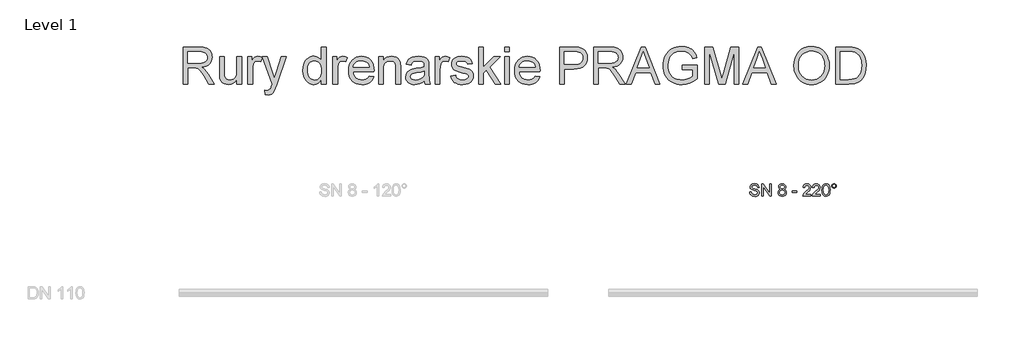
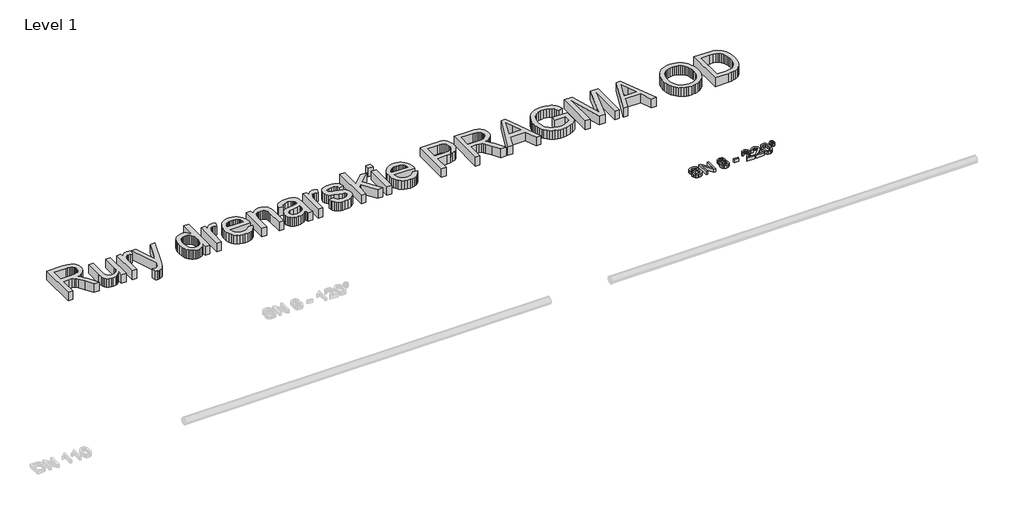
# One storey, part 4 of 9: 2 proxies.
"""IFC4 building model written with IfcOpenShell, lengths in millimetres."""

from ifc_helpers import new_model, si_unit, origin, origin_with_axes, place, context, project, spatial, polyline, outline, extrude, element, save

model = new_model("IFC4")

# Units and contexts
model_context = context("Model", 3, world=origin())
ifc_project = project(units=[si_unit("LENGTHUNIT", "METRE", prefix="MILLI")], contexts=[model_context])

# Site, building, storey
site = spatial("IfcSite", under=ifc_project)
building = spatial("IfcBuilding", under=site)
storey = spatial("IfcBuildingStorey", under=building, Name="Level 1", Elevation=0.0)

# Proxies
placement = place(None, origin())
element("IfcBuildingElementProxy", 1, Name="200mm Arial", ObjectType="200mm Arial", at=placement, inside=storey, context=model_context, shape_type="SweptSolid", body=[
    extrude(outline(polyline([(-7742.1398156, 2231.0128426), (-7717.0257381, 2231.0128426), (-7708.9323342, 2205.8742396), (-7700.8021421, 2196.983758), (-7689.1648083, 2189.9817374), (-7674.9400379, 2185.4383947), (-7659.0475357, 2183.9239472), (-7632.8052867, 2188.5102094), (-7615.8581894, 2201.1162991), (-7610.2909086, 2217.9652945), (-7614.4602379, 2233.6370675), (-7620.8123336, 2239.8358791), (-7631.5299624, 2245.0414093), (-7668.0974328, 2254.6308667), (-7707.4608062, 2267.0162272), (-7719.9626627, 2275.4652503), (-7728.8224874, 2285.7046325), (-7734.1015941, 2297.5136446), (-7735.8612963, 2310.6715573), (-7733.6846611, 2325.3807057), (-7727.1547557, 2339.0965728), (-7716.4432583, 2350.7216438), (-7701.7218471, 2359.1584042), (-7684.0512486, 2364.2903581), (-7664.4921892, 2366.0010093), (-7643.3021863, 2364.2106503), (-7624.7609337, 2358.8395732), (-7609.5306191, 2349.9981425), (-7598.2734301, 2337.796723), (-7591.1487821, 2322.9956041), (-7588.3160907, 2306.3550752), (-7613.4301683, 2306.3550752), (-7618.0409559, 2321.3401351), (-7627.6549387, 2332.1558658), (-7642.6767869, 2338.7041653), (-7663.5111705, 2340.8869318), (-7684.8360635, 2338.7286908), (-7699.4655042, 2332.2539676), (-7707.9267901, 2322.725824), (-7710.7472187, 2311.4073212), (-7708.7483932, 2301.7565502), (-7702.7519167, 2293.9942401), (-7688.5761971, 2287.0535332), (-7661.745337, 2279.9656734), (-7617.305192, 2267.3595837), (-7602.988451, 2258.2483729), (-7593.0004548, 2247.0034466), (-7587.132737, 2233.7474321), (-7585.176831, 2218.6029566), (-7587.4270426, 2203.121256), (-7594.1776772, 2188.5592603), (-7605.1528234, 2176.026747), (-7620.0765696, 2166.6334934), (-7638.0230796, 2160.7657756), (-7658.066517, 2158.8098696), (-7682.6716911, 2160.9190598), (-7702.923595, 2167.2466301), (-7719.0552205, 2177.8171061), (-7731.2995595, 2192.6550132), (-7739.1599715, 2210.7302819), (-7742.1398156, 2231.0128426)])), origin_with_axes(), (0.0, 0.0, 1.0), 50.0),
    extrude(outline(polyline([(-7547.5057147, 2161.9491293), (-7547.5057147, 2362.8617496), (-7520.6258036, 2362.8617496), (-7415.6568077, 2203.6914731), (-7415.6568077, 2362.8617496), (-7390.5427301, 2362.8617496), (-7390.5427301, 2161.9491293), (-7417.4226412, 2161.9491293), (-7522.3916372, 2321.1684569), (-7522.3916372, 2161.9491293), (-7547.5057147, 2161.9491293)])), origin_with_axes(), (0.0, 0.0, 1.0), 50.0),
    extrude(outline(polyline([(-7240.9373854, 2272.6080335), (-7254.3834723, 2279.2299094), (-7263.8196455, 2288.2062301), (-7269.3930577, 2299.3530545), (-7271.2508618, 2312.4864418), (-7267.2041599, 2332.1190776), (-7255.064054, 2348.3426736), (-7236.1917077, 2359.2319806), (-7211.9482842, 2362.8617496), (-7187.5577079, 2359.1461415), (-7168.4401069, 2347.999317), (-7156.0792719, 2331.5182037), (-7151.9589935, 2311.7997287), (-7153.7922721, 2299.0894058), (-7159.292108, 2288.1326537), (-7168.5198147, 2279.2115153), (-7181.5367059, 2272.6080335), (-7166.0795308, 2264.6433883), (-7154.8284731, 2252.914084), (-7147.9674739, 2237.9842064), (-7145.6804741, 2220.4178411), (-7150.2176854, 2196.4074096), (-7163.8293192, 2176.5663073), (-7184.8476439, 2163.2489791), (-7211.6049277, 2158.8098696), (-7238.3622115, 2163.2673732), (-7259.3805361, 2176.6398837), (-7272.9921699, 2196.6710583), (-7277.5293812, 2221.1045542), (-7275.150411, 2239.3515011), (-7268.0135003, 2254.3610865), (-7256.4865311, 2265.6182756), (-7240.9373854, 2272.6080335)]), holes=[polyline([(-7246.1367843, 2311.7506778), (-7243.9110982, 2300.7877943), (-7237.23404, 2292.0322028), (-7226.3018134, 2286.2932437), (-7211.3106221, 2284.3802573), (-7196.6689187, 2286.280981), (-7185.9022389, 2291.9831519), (-7179.280363, 2300.4444378), (-7177.0730711, 2310.6225063), (-7179.3539394, 2321.186851), (-7186.1965445, 2329.9240483), (-7197.1103771, 2335.7917662), (-7211.6049277, 2337.7476721), (-7226.1914488, 2335.8346857), (-7237.0868872, 2330.0957266), (-7243.87431, 2321.6834916), (-7246.1367843, 2311.7506778)]), polyline([(-7252.4153037, 2221.987471), (-7248.2214489, 2203.0783364), (-7242.4150448, 2194.9665384), (-7233.3835418, 2188.9271423), (-7211.4087239, 2183.9239472), (-7194.3144739, 2186.5543035), (-7181.487655, 2194.4453722), (-7173.4678275, 2206.3954057), (-7170.7945517, 2221.202656), (-7173.5536666, 2236.2612924), (-7181.8310115, 2248.4749746), (-7194.952136, 2256.5683785), (-7212.2425898, 2259.2661798), (-7229.0977165, 2256.6051667), (-7241.7957767, 2248.6221274), (-7249.7604219, 2236.6414371), (-7252.4153037, 2221.987471)])]), origin_with_axes(), (0.0, 0.0, 1.0), 50.0),
    extrude(outline(polyline([(-7051.5026834, 2221.5950635), (-7051.5026834, 2246.709141), (-6973.0211911, 2246.709141), (-6973.0211911, 2221.5950635), (-7051.5026834, 2221.5950635)])), origin_with_axes(), (0.0, 0.0, 1.0), 50.0),
    extrude(outline(polyline([(-6743.8552335, 2187.0632069), (-6743.8552335, 2161.9491293), (-6875.7041406, 2161.9491293), (-6873.0063393, 2179.2641086), (-6857.7514992, 2205.9232905), (-6826.3098514, 2235.0350191), (-6782.9488269, 2276.8754646), (-6774.8186348, 2291.2964388), (-6772.1085708, 2305.3250056), (-6774.6653506, 2317.9004385), (-6782.3356902, 2328.3544185), (-6794.1263082, 2335.3993587), (-6809.0439231, 2337.7476721), (-6824.7095647, 2335.454541), (-6836.8803274, 2328.5751477), (-6844.734608, 2317.6490524), (-6847.4508034, 2303.2158155), (-6872.5648809, 2306.3550752), (-6866.4764339, 2330.6475496), (-6853.3123898, 2348.3917245), (-6833.7594618, 2359.2442434), (-6808.5043628, 2362.8617496), (-6783.0653229, 2358.8395732), (-6763.549183, 2346.7730437), (-6751.1331657, 2328.746826), (-6746.9944932, 2306.8455845), (-6751.4581281, 2283.0313567), (-6766.2960352, 2258.4077885), (-6802.2748944, 2223.9985592), (-6831.1658937, 2199.8409748), (-6842.4966592, 2187.0632069), (-6743.8552335, 2187.0632069)])), origin_with_axes(), (0.0, 0.0, 1.0), 50.0),
    extrude(outline(polyline([(-6590.0315086, 2187.0632069), (-6590.0315086, 2161.9491293), (-6721.8804157, 2161.9491293), (-6719.1826144, 2179.2641086), (-6703.9277743, 2205.9232905), (-6672.4861265, 2235.0350191), (-6629.125102, 2276.8754646), (-6620.9949099, 2291.2964388), (-6618.2848458, 2305.3250056), (-6620.8416257, 2317.9004385), (-6628.5119653, 2328.3544185), (-6640.3025833, 2335.3993587), (-6655.2201982, 2337.7476721), (-6670.8858398, 2335.454541), (-6683.0566025, 2328.5751477), (-6690.9108831, 2317.6490524), (-6693.6270785, 2303.2158155), (-6718.741156, 2306.3550752), (-6712.652709, 2330.6475496), (-6699.4886649, 2348.3917245), (-6679.9357369, 2359.2442434), (-6654.6806379, 2362.8617496), (-6629.2415979, 2358.8395732), (-6609.7254581, 2346.7730437), (-6597.3094408, 2328.746826), (-6593.1707683, 2306.8455845), (-6597.6344032, 2283.0313567), (-6612.4723103, 2258.4077885), (-6648.4511695, 2223.9985592), (-6677.3421688, 2199.8409748), (-6688.6729343, 2187.0632069), (-6590.0315086, 2187.0632069)])), origin_with_axes(), (0.0, 0.0, 1.0), 50.0),
    extrude(outline(polyline([(-6564.9174311, 2260.7867587), (-6563.0718897, 2292.9457765), (-6557.5352657, 2318.5932829), (-6548.3627413, 2338.1216855), (-6535.6094988, 2351.9233917), (-6519.1835677, 2360.1271601), (-6498.9929775, 2362.8617496), (-6483.5174083, 2361.2430689), (-6469.6605198, 2356.3870265), (-6458.0722369, 2348.483695), (-6449.4024846, 2337.7231466), (-6437.6302608, 2307.9982814), (-6433.068524, 2260.7867587), (-6434.8956713, 2228.811682), (-6440.377113, 2203.2254892), (-6449.4944551, 2183.6786925), (-6462.2293035, 2169.821804), (-6478.6920228, 2161.5628532), (-6498.9929775, 2158.8098696), (-6525.0880737, 2163.5923356), (-6544.9046505, 2177.9397334), (-6553.660242, 2193.0688805), (-6559.9142359, 2211.919767), (-6564.9174311, 2260.7867587)]), holes=[polyline([(-6539.8033535, 2260.8358096), (-6536.8602976, 2221.3314147), (-6528.0311297, 2198.4675487), (-6514.8854797, 2187.5598476), (-6498.9929775, 2183.9239472), (-6483.1004754, 2187.5721103), (-6469.9548254, 2198.5165997), (-6461.1256575, 2221.3927284), (-6458.1826015, 2260.8358096), (-6461.0275556, 2299.4511564), (-6469.5624179, 2322.492832), (-6482.6835424, 2333.9339621), (-6499.2872831, 2337.7476721), (-6515.0081071, 2334.3876832), (-6527.6387222, 2324.3077165), (-6536.7621957, 2299.8313011), (-6539.8033535, 2260.8358096)])]), origin_with_axes(), (0.0, 0.0, 1.0), 50.0),
    extrude(outline(polyline([(-6404.8151868, 2328.378944), (-6402.0499405, 2342.8612318), (-6393.7542015, 2355.0136004), (-6381.5834388, 2363.2541571), (-6367.1931214, 2366.0010093), (-6352.6372571, 2363.2541571), (-6340.4603631, 2355.0136004), (-6332.2198064, 2342.8612318), (-6329.4729542, 2328.378944), (-6332.2382005, 2313.9150502), (-6340.5339395, 2301.719762), (-6352.7292276, 2293.4240231), (-6367.1931214, 2290.6587767), (-6381.5834388, 2293.405629), (-6393.7542015, 2301.6461856), (-6402.0499405, 2313.8230797), (-6404.8151868, 2328.378944)]), holes=[polyline([(-6389.1188883, 2328.329893), (-6387.5063389, 2319.8808699), (-6382.6686907, 2312.7807474), (-6375.5501741, 2307.9614932), (-6367.0950195, 2306.3550752), (-6358.7134414, 2307.9614932), (-6351.6194503, 2312.7807474), (-6346.781802, 2319.8808699), (-6345.1692526, 2328.329893), (-6346.781802, 2336.7789162), (-6351.6194503, 2343.8790387), (-6358.7134414, 2348.6982928), (-6367.0950195, 2350.3047109), (-6375.5501741, 2348.6982928), (-6382.6686907, 2343.8790387), (-6387.5063389, 2336.7789162), (-6389.1188883, 2328.329893)])]), origin_with_axes(), (0.0, 0.0, 1.0), 50.0),
])
element("IfcBuildingElementProxy", 2, Name="600mm Arial", ObjectType="600mm Arial", at=placement, inside=storey, context=model_context, shape_type="SweptSolid", body=[
    extrude(outline(polyline([(-16966.7426717, 3990.4626098), (-16966.7426717, 4593.2004707), (-16707.0179831, 4593.2004707), (-16637.2123745, 4589.1353747), (-16586.4262651, 4576.9400865), (-16566.8273518, 4567.246396), (-16549.3069718, 4554.4257084), (-16533.865125, 4538.4780239), (-16520.5018115, 4519.4033425), (-16509.7182705, 4498.2271351), (-16502.0157413, 4475.974873), (-16497.3942237, 4452.6465559), (-16495.8537179, 4428.2421841), (-16498.4058992, 4397.2849142), (-16506.0624432, 4368.8660301), (-16518.8233499, 4342.9855317), (-16536.6886193, 4319.6434191), (-16559.8881776, 4299.5846533), (-16588.6519511, 4283.5541954), (-16622.9799398, 4271.5520453), (-16662.8721437, 4263.5782031), (-16638.040109, 4247.3546071), (-16620.0506794, 4231.3517403), (-16589.18538, 4194.7474818), (-16558.9822682, 4153.8022157), (-16458.4769071, 3990.4626098), (-16546.032822, 3990.4626098), (-16624.4652634, 4115.3953354), (-16681.1190906, 4198.0952079), (-16702.1803348, 4222.2098727), (-16720.9239225, 4237.1642758), (-16756.7556288, 4251.5116736), (-16800.4600099, 4254.160424), (-16891.4004391, 4254.160424), (-16891.4004391, 3990.4626098), (-16966.7426717, 3990.4626098)]), holes=[polyline([(-16891.4004391, 4329.5026566), (-16722.7633325, 4329.5026566), (-16674.3316678, 4332.1698011), (-16636.752522, 4340.1712344), (-16608.4623966, 4354.0403857), (-16587.897793, 4374.3106836), (-16575.3714111, 4398.8300186), (-16571.1959505, 4425.4462809), (-16573.1871118, 4444.7141004), (-16579.1605957, 4462.1976922), (-16589.1164022, 4477.8970564), (-16603.0545312, 4491.8121929), (-16621.2968797, 4503.2073377), (-16644.1653442, 4511.3467268), (-16671.6599248, 4516.2303603), (-16703.7806215, 4517.8582381), (-16891.4004391, 4517.8582381), (-16891.4004391, 4329.5026566)])]), origin_with_axes(), (0.0, 0.0, 1.0), 150.0),
    extrude(outline(polyline([(-16090.8892176, 3990.4626098), (-16090.8892176, 4066.5406064), (-16118.1492734, 4029.1362046), (-16149.8974896, 4002.4187747), (-16186.1338661, 3986.3883167), (-16226.858403, 3981.0448308), (-16263.554632, 3984.7972271), (-16297.7124753, 3996.0544162), (-16326.3704827, 4012.9769879), (-16346.5672042, 4033.7255325), (-16360.1604439, 4058.9254491), (-16369.0080059, 4089.2021373), (-16373.4225899, 4159.2468692), (-16373.4225899, 4433.0982264), (-16298.0803572, 4433.0982264), (-16298.0803572, 4194.7106936), (-16296.9399231, 4147.033187), (-16293.5186205, 4117.896933), (-16282.537343, 4092.273952), (-16263.7201789, 4072.7946004), (-16238.3179271, 4060.4889476), (-16207.5813864, 4056.3870634), (-16175.0790122, 4060.5809181), (-16144.6735653, 4073.1624823), (-16119.6024073, 4092.9729278), (-16103.1028998, 4118.8534261), (-16093.9426381, 4154.2988564), (-16090.8892176, 4202.8040974), (-16090.8892176, 4433.0982264), (-16015.546985, 4433.0982264), (-16015.546985, 3990.4626098), (-16090.8892176, 3990.4626098)])), origin_with_axes(), (0.0, 0.0, 1.0), 150.0),
    extrude(outline(polyline([(-15911.9514151, 3990.4626098), (-15911.9514151, 4433.0982264), (-15846.0269616, 4433.0982264), (-15846.0269616, 4367.6152313), (-15821.6731735, 4405.5806532), (-15799.2323718, 4427.9478785), (-15776.7179937, 4438.8739738), (-15752.1434764, 4442.5160055), (-15714.6195129, 4436.70347), (-15676.5069382, 4419.2658634), (-15701.6700667, 4351.7227291), (-15728.1575703, 4363.3110119), (-15754.645074, 4367.1737729), (-15777.141058, 4363.4581647), (-15797.245809, 4352.3113403), (-15813.4877991, 4334.5794281), (-15824.3955003, 4311.1085568), (-15833.5557619, 4269.0228566), (-15836.6091825, 4223.1111836), (-15836.6091825, 3990.4626098), (-15911.9514151, 3990.4626098)])), origin_with_axes(), (0.0, 0.0, 1.0), 150.0),
    extrude(outline(polyline([(-15629.4180428, 3820.9425865), (-15638.8358219, 3893.4889159), (-15600.5760944, 3886.86704), (-15580.4529493, 3888.9455733), (-15564.8179645, 3895.1811731), (-15552.6410704, 3905.1323811), (-15542.8921975, 3918.3577388), (-15522.2908058, 3973.8343436), (-15516.4046939, 3992.0812906), (-15676.5069382, 4433.0982264), (-15597.0444272, 4433.0982264), (-15512.1372628, 4187.3530537), (-15482.5595503, 4089.0549845), (-15452.9818379, 4175.8751354), (-15365.7202287, 4433.0982264), (-15286.8463289, 4433.0982264), (-15440.9153085, 3979.8676084), (-15480.9408696, 3881.5695393), (-15501.4318967, 3850.1892051), (-15524.6452506, 3828.4473792), (-15551.6110008, 3815.7554503), (-15583.359217, 3811.5248074), (-15605.1746193, 3813.8792521), (-15629.4180428, 3820.9425865)])), origin_with_axes(), (0.0, 0.0, 1.0), 150.0),
    extrude(outline(polyline([(-14715.8934724, 3990.4626098), (-14715.8934724, 4061.5374113), (-14738.4354416, 4026.3219073), (-14765.7414827, 4001.1679759), (-14797.8115957, 3986.075617), (-14834.6457804, 3981.0448308), (-14859.5146033, 3982.8658466), (-14883.3533566, 3988.3288943), (-14906.1620403, 3997.4339736), (-14927.9406544, 4010.1810848), (-14948.0086172, 4026.1885501), (-14965.6853471, 4045.074692), (-14980.970844, 4066.8395106), (-14993.8651079, 4091.4830057), (-15004.1014245, 4118.5361279), (-15011.4130791, 4147.5298277), (-15017.2624028, 4211.3389597), (-15011.8729316, 4274.3571455), (-14995.7045179, 4331.2684902), (-14983.5828062, 4356.6247567), (-14968.7755559, 4378.8356321), (-14951.282767, 4397.9011165), (-14931.1044396, 4413.8212099), (-14908.9533449, 4426.375183), (-14885.5422545, 4435.3423066), (-14860.8711682, 4440.7225808), (-14834.940086, 4442.5160055), (-14798.0783101, 4437.3840517), (-14765.4839653, 4421.9881902), (-14737.8560275, 4398.3885602), (-14715.8934724, 4368.6453009), (-14715.8934724, 4593.2004707), (-14640.5512398, 4593.2004707), (-14640.5512398, 3990.4626098), (-14715.8934724, 3990.4626098)]), holes=[polyline([(-14941.9201702, 4211.6332653), (-14939.7956517, 4175.0979847), (-14933.4220961, 4143.4831257), (-14922.7995035, 4116.7886885), (-14907.9278739, 4095.0146729), (-14890.1683706, 4078.1150937), (-14870.882157, 4066.0439657), (-14850.0692331, 4058.801289), (-14827.7295989, 4056.3870634), (-14805.2841987, 4058.6909244), (-14784.595435, 4065.6025073), (-14765.6633078, 4077.1218123), (-14748.4878172, 4093.2488393), (-14734.2277913, 4114.1123469), (-14724.0420586, 4139.841094), (-14717.9306189, 4170.4350804), (-14715.8934724, 4205.8943062), (-14717.9674071, 4244.770236), (-14724.1892114, 4278.1095419), (-14734.5588851, 4305.9122236), (-14749.0764284, 4328.1782814), (-14766.6289981, 4345.2388089), (-14786.1037512, 4357.4249), (-14807.5006877, 4364.7365547), (-14830.8198077, 4367.1737729), (-14853.6009002, 4364.8331237), (-14874.4138241, 4357.8111761), (-14893.2585793, 4346.1079301), (-14910.1351658, 4329.7233858), (-14924.0411053, 4308.2988581), (-14933.9739191, 4281.4756621), (-14939.9336075, 4249.2537979), (-14941.9201702, 4211.6332653)])]), origin_with_axes(), (0.0, 0.0, 1.0), 150.0),
    extrude(outline(polyline([(-14527.5378909, 3990.4626098), (-14527.5378909, 4433.0982264), (-14461.6134373, 4433.0982264), (-14461.6134373, 4367.6152313), (-14437.2596492, 4405.5806532), (-14414.8188475, 4427.9478785), (-14392.3044694, 4438.8739738), (-14367.7299522, 4442.5160055), (-14330.2059886, 4436.70347), (-14292.0934139, 4419.2658634), (-14317.2565424, 4351.7227291), (-14343.7440461, 4363.3110119), (-14370.2315497, 4367.1737729), (-14392.7275337, 4363.4581647), (-14412.8322848, 4352.3113403), (-14429.0742749, 4334.5794281), (-14439.981976, 4311.1085568), (-14449.1422377, 4269.0228566), (-14452.1956582, 4223.1111836), (-14452.1956582, 3990.4626098), (-14527.5378909, 3990.4626098)])), origin_with_axes(), (0.0, 0.0, 1.0), 150.0),
    extrude(outline(polyline([(-13935.1007258, 4122.3115169), (-13861.2300212, 4112.8937378), (-13872.5561881, 4083.3068284), (-13887.8462835, 4057.233192), (-13907.1003075, 4034.6728286), (-13930.3182599, 4015.6257383), (-13957.2610175, 4000.4965913), (-13987.689457, 3989.6900576), (-14021.6035785, 3983.2061375), (-14059.0033818, 3981.0448308), (-14105.7519863, 3984.7742345), (-14147.4054252, 3995.9624457), (-14183.9636985, 4014.6094643), (-14215.4268062, 4040.7152904), (-14240.7278904, 4073.553357), (-14258.8000934, 4112.3970971), (-14269.6434152, 4157.2465109), (-14273.2578558, 4208.1015982), (-14269.606627, 4260.6811323), (-14258.6529406, 4307.0250667), (-14240.3967966, 4347.1334012), (-14214.838195, 4381.0061359), (-14183.4578608, 4407.9167039), (-14147.736519, 4427.1385381), (-14107.6741698, 4438.6716387), (-14063.2708129, 4442.5160055), (-14020.2975974, 4438.6808357), (-13981.4354631, 4427.1753263), (-13946.6844102, 4407.9994773), (-13916.0444385, 4381.1532887), (-13891.0330613, 4347.3541304), (-13873.1677919, 4307.3193723), (-13862.4486303, 4261.0490143), (-13858.8755764, 4208.5430566), (-13859.3170348, 4188.2359704), (-14197.9156232, 4188.2359704), (-14193.551623, 4158.1708144), (-14184.8742065, 4131.8396606), (-14171.8833735, 4109.242509), (-14154.5791241, 4090.3793597), (-14133.9179516, 4075.5077301), (-14110.856349, 4064.8851375), (-14085.3943164, 4058.5115819), (-14057.5318538, 4056.3870634), (-14017.4327163, 4060.3234007), (-13983.6611492, 4072.1324128), (-13956.2171524, 4092.5498635), (-13935.1007258, 4122.3115169)]), holes=[polyline([(-14197.9156232, 4263.5782031), (-13934.217809, 4263.5782031), (-13944.4081403, 4303.3830349), (-13953.1729288, 4319.0364138), (-13964.3841326, 4331.8571014), (-13984.9303421, 4347.3081452), (-14008.3092429, 4358.344605), (-14034.520835, 4364.9664809), (-14063.5651185, 4367.1737729), (-14090.0572207, 4365.4125378), (-14114.351228, 4360.1288327), (-14136.4471403, 4351.3226574), (-14156.3449577, 4338.9940121), (-14173.0422018, 4323.7131137), (-14185.536394, 4306.0501794), (-14193.8275345, 4286.0052092), (-14197.9156232, 4263.5782031)])]), origin_with_axes(), (0.0, 0.0, 1.0), 150.0),
    extrude(outline(polyline([(-13783.5333438, 3990.4626098), (-13783.5333438, 4433.0982264), (-13708.1911112, 4433.0982264), (-13708.1911112, 4371.2940512), (-13682.0163072, 4402.4536562), (-13650.5807908, 4424.7105169), (-13613.8845617, 4438.0646334), (-13571.9276202, 4442.5160055), (-13534.7899328, 4438.9291561), (-13500.7792423, 4428.1686077), (-13472.4155405, 4411.5771297), (-13452.218819, 4390.4974914), (-13438.5152146, 4364.984875), (-13429.6308645, 4335.0944629), (-13425.6577389, 4262.2538279), (-13425.6577389, 3990.4626098), (-13500.9999715, 3990.4626098), (-13500.9999715, 4252.1002848), (-13503.1704753, 4291.0589881), (-13509.6819866, 4318.7605023), (-13521.6933337, 4338.607736), (-13540.363345, 4354.0035975), (-13564.2940688, 4363.881229), (-13592.0875535, 4367.1737729), (-13614.9652151, 4365.3251659), (-13636.2149988, 4359.7793448), (-13655.8369048, 4350.5363097), (-13673.8309329, 4337.5960605), (-13688.8635109, 4319.4870693), (-13699.6010666, 4294.737808), (-13706.0436001, 4263.3482768), (-13708.1911112, 4225.3184756), (-13708.1911112, 3990.4626098), (-13783.5333438, 3990.4626098)])), origin_with_axes(), (0.0, 0.0, 1.0), 150.0),
    extrude(outline(polyline([(-13039.5287968, 4046.9692843), (-13075.52605, 4016.1039849), (-13112.590161, 3995.9072634), (-13151.5672584, 3984.7604389), (-13193.3034708, 3981.0448308), (-13226.8497102, 3983.2797139), (-13256.2664742, 3989.9843632), (-13281.5537629, 4001.1587788), (-13302.7115761, 4016.8029607), (-13319.4180172, 4035.9236274), (-13331.3511894, 4057.5274976), (-13338.5110928, 4081.6145712), (-13340.8977272, 4108.1848483), (-13337.2924837, 4139.4180297), (-13326.476753, 4167.7817315), (-13309.7933045, 4192.0619432), (-13288.5849075, 4211.0446541), (-13263.6609023, 4225.392052), (-13235.8306294, 4235.7663242), (-13170.6419399, 4247.0970897), (-13093.6074501, 4259.0164663), (-13039.9702552, 4272.9959821), (-13039.5287968, 4289.7714011), (-13044.7159329, 4323.3958155), (-13051.1998531, 4335.848621), (-13060.2773413, 4345.3951588), (-13075.9675084, 4354.9233025), (-13095.078978, 4361.7291194), (-13143.565825, 4367.1737729), (-13188.4474284, 4363.5501352), (-13219.7909744, 4352.6792223), (-13241.1649183, 4332.5744712), (-13256.1377155, 4301.2493194), (-13331.4799481, 4310.6670984), (-13318.4017432, 4351.8698819), (-13298.8856034, 4384.2434975), (-13271.1105127, 4409.0019557), (-13233.2554554, 4427.3592673), (-13186.9575063, 4438.726821), (-13133.8537403, 4442.5160055), (-13082.9204781, 4439.1682793), (-13042.5454291, 4429.1251009), (-13012.103194, 4414.023545), (-12990.9683734, 4395.5006865), (-12976.9520694, 4372.6000323), (-12967.8653841, 4344.3650892), (-12964.1865642, 4278.4406357), (-12964.1865642, 4184.7043033), (-12960.3605914, 4053.8118894), (-12954.6952087, 4021.4566679), (-12945.351006, 3990.4626098), (-13020.6932386, 3990.4626098), (-13032.7597681, 4016.6558079), (-13039.5287968, 4046.9692843)]), holes=[polyline([(-13039.5287968, 4197.6537495), (-13090.1493593, 4185.1089735), (-13161.077008, 4174.5507602), (-13225.8978155, 4162.337078), (-13242.765205, 4153.9861567), (-13255.2547987, 4142.4714502), (-13262.9803206, 4128.6758754), (-13265.5554946, 4113.482349), (-13259.9452942, 4091.0783355), (-13243.1146929, 4072.721024), (-13215.4315728, 4060.4705535), (-13177.2638158, 4056.3870634), (-13136.7967963, 4060.8936178), (-13101.0386664, 4074.4132811), (-13072.0495651, 4094.3340912), (-13051.8896318, 4118.0440858), (-13042.9500993, 4142.4714502), (-13039.9702552, 4176.3165938), (-13039.5287968, 4197.6537495)])]), origin_with_axes(), (0.0, 0.0, 1.0), 150.0),
    extrude(outline(polyline([(-12860.5909943, 3990.4626098), (-12860.5909943, 4433.0982264), (-12794.6665408, 4433.0982264), (-12794.6665408, 4367.6152313), (-12770.3127527, 4405.5806532), (-12747.871951, 4427.9478785), (-12725.3575729, 4438.8739738), (-12700.7830556, 4442.5160055), (-12663.2590921, 4436.70347), (-12625.1465174, 4419.2658634), (-12650.3096459, 4351.7227291), (-12676.7971495, 4363.3110119), (-12703.2846532, 4367.1737729), (-12725.7806372, 4363.4581647), (-12745.8853882, 4352.3113403), (-12762.1273783, 4334.5794281), (-12773.0350795, 4311.1085568), (-12782.1953411, 4269.0228566), (-12785.2487617, 4223.1111836), (-12785.2487617, 3990.4626098), (-12860.5909943, 3990.4626098)])), origin_with_axes(), (0.0, 0.0, 1.0), 150.0),
    extrude(outline(polyline([(-12606.3109592, 4122.3115169), (-12530.9687266, 4131.729296), (-12526.4161869, 4114.5492068), (-12519.0861382, 4099.5028332), (-12508.9785804, 4086.5901752), (-12496.0935135, 4075.8112327), (-12480.3941493, 4067.3131586), (-12461.8436997, 4061.2431057), (-12416.1895441, 4056.3870634), (-12371.0872115, 4060.8384355), (-12353.5576345, 4066.4026507), (-12339.3757835, 4074.1925519), (-12320.6138018, 4093.5431449), (-12315.9233064, 4104.3772696), (-12314.3598079, 4115.9839466), (-12315.9325034, 4126.1558838), (-12320.65059, 4135.1873867), (-12339.5229363, 4149.8290901), (-12367.7394854, 4159.394022), (-12417.0724609, 4171.3133987), (-12485.8296058, 4191.1974205), (-12530.5272682, 4208.1751746), (-12559.240458, 4226.698033), (-12580.0441848, 4251.217368), (-12592.6809313, 4280.169681), (-12596.8931802, 4311.9914736), (-12593.5086658, 4341.1829099), (-12583.3551227, 4368.1302661), (-12567.352256, 4391.7666843), (-12546.4197704, 4411.0253067), (-12525.6160436, 4423.1470185), (-12498.5215347, 4433.3189556), (-12467.1963828, 4440.216743), (-12433.7007271, 4442.5160055), (-12384.6620572, 4438.8187915), (-12342.0245339, 4427.7271493), (-12307.737932, 4410.3263309), (-12283.7520259, 4387.7015882), (-12267.8595237, 4358.1790581), (-12257.8531334, 4320.0848775), (-12333.195366, 4310.6670984), (-12342.7051156, 4334.377093), (-12361.5222797, 4352.2377639), (-12389.8307992, 4363.4397706), (-12427.8146152, 4367.1737729), (-12471.0775378, 4363.6053175), (-12499.9194862, 4352.8999515), (-12516.1430822, 4337.4489077), (-12521.5509476, 4319.6434191), (-12519.3068674, 4308.0551363), (-12512.5746269, 4297.7176522), (-12501.0599204, 4288.4838141), (-12484.4684424, 4281.089386), (-12419.5740585, 4265.049731), (-12308.9887307, 4229.5859067), (-12279.7789003, 4212.6265467), (-12257.6324042, 4189.4131928), (-12243.6712825, 4159.8722686), (-12239.0175753, 4123.9301977), (-12244.4806229, 4086.7741162), (-12260.8697658, 4051.8253266), (-12287.5596045, 4021.8245499), (-12323.9247398, 3999.5125069), (-12367.84985, 3985.6617498), (-12417.2196137, 3981.0448308), (-12457.7694066, 3983.2705168), (-12493.1872457, 3989.947575), (-12523.473131, 4001.0760054), (-12548.6270624, 4016.6558079), (-12569.1732718, 4036.6134061), (-12585.6359911, 4060.8752237), (-12598.0152203, 4089.4412606), (-12606.3109592, 4122.3115169)])), origin_with_axes(), (0.0, 0.0, 1.0), 150.0),
    extrude(outline(polyline([(-12154.2575636, 3990.4626098), (-12154.2575636, 4593.2004707), (-12078.915331, 4593.2004707), (-12078.915331, 4269.3171622), (-11909.9839188, 4433.0982264), (-11805.7997377, 4433.0982264), (-11976.7912891, 4267.257023), (-11796.3819587, 3990.4626098), (-11884.3793319, 3990.4626098), (-12030.796366, 4214.8706269), (-12078.915331, 4168.2231899), (-12078.915331, 3990.4626098), (-12154.2575636, 3990.4626098)])), origin_with_axes(), (0.0, 0.0, 1.0), 150.0),
    extrude(outline(polyline([(-11730.4575051, 4517.8582381), (-11730.4575051, 4593.2004707), (-11655.1152725, 4593.2004707), (-11655.1152725, 4517.8582381), (-11730.4575051, 4517.8582381)])), origin_with_axes(), (0.0, 0.0, 1.0), 150.0),
    extrude(outline(polyline([(-11730.4575051, 3990.4626098), (-11730.4575051, 4433.0982264), (-11655.1152725, 4433.0982264), (-11655.1152725, 3990.4626098), (-11730.4575051, 3990.4626098)])), origin_with_axes(), (0.0, 0.0, 1.0), 150.0),
    extrude(outline(polyline([(-11232.1981309, 4122.3115169), (-11158.3274262, 4112.8937378), (-11169.6535932, 4083.3068284), (-11184.9436886, 4057.233192), (-11204.1977125, 4034.6728286), (-11227.4156649, 4015.6257383), (-11254.3584225, 4000.4965913), (-11284.7868621, 3989.6900576), (-11318.7009835, 3983.2061375), (-11356.1007868, 3981.0448308), (-11402.8493914, 3984.7742345), (-11444.5028303, 3995.9624457), (-11481.0611036, 4014.6094643), (-11512.5242112, 4040.7152904), (-11537.8252954, 4073.553357), (-11555.8974984, 4112.3970971), (-11566.7408202, 4157.2465109), (-11570.3552608, 4208.1015982), (-11566.704032, 4260.6811323), (-11555.7503456, 4307.0250667), (-11537.4942016, 4347.1334012), (-11511.9356, 4381.0061359), (-11480.5552658, 4407.9167039), (-11444.8339241, 4427.1385381), (-11404.7715748, 4438.6716387), (-11360.368218, 4442.5160055), (-11317.3950024, 4438.6808357), (-11278.5328682, 4427.1753263), (-11243.7818152, 4407.9994773), (-11213.1418435, 4381.1532887), (-11188.1304664, 4347.3541304), (-11170.265197, 4307.3193723), (-11159.5460353, 4261.0490143), (-11155.9729815, 4208.5430566), (-11156.4144399, 4188.2359704), (-11495.0130282, 4188.2359704), (-11490.6490281, 4158.1708144), (-11481.9716115, 4131.8396606), (-11468.9807785, 4109.242509), (-11451.6765292, 4090.3793597), (-11431.0153566, 4075.5077301), (-11407.9537541, 4064.8851375), (-11382.4917215, 4058.5115819), (-11354.6292589, 4056.3870634), (-11314.5301214, 4060.3234007), (-11280.7585542, 4072.1324128), (-11253.3145574, 4092.5498635), (-11232.1981309, 4122.3115169)]), holes=[polyline([(-11495.0130282, 4263.5782031), (-11231.3152141, 4263.5782031), (-11241.5055453, 4303.3830349), (-11250.2703339, 4319.0364138), (-11261.4815377, 4331.8571014), (-11282.0277471, 4347.3081452), (-11305.4066479, 4358.344605), (-11331.6182401, 4364.9664809), (-11360.6625236, 4367.1737729), (-11387.1546258, 4365.4125378), (-11411.448633, 4360.1288327), (-11433.5445453, 4351.3226574), (-11453.4423628, 4338.9940121), (-11470.1396068, 4323.7131137), (-11482.6337991, 4306.0501794), (-11490.9249395, 4286.0052092), (-11495.0130282, 4263.5782031)])]), origin_with_axes(), (0.0, 0.0, 1.0), 150.0),
    extrude(outline(polyline([(-10835.7684929, 3990.4626098), (-10835.7684929, 4593.2004707), (-10612.3905454, 4593.2004707), (-10560.3720313, 4591.7657309), (-10522.333033, 4587.4615116), (-10482.1787132, 4576.7377514), (-10449.1245159, 4559.2817508), (-10422.5082536, 4534.3025633), (-10401.6677386, 4501.0092427), (-10388.2032575, 4461.7378398), (-10383.7150972, 4418.824405), (-10386.7455251, 4381.8246734), (-10395.8368089, 4347.7863917), (-10410.9889486, 4316.7095602), (-10432.2019442, 4288.5941787), (-10461.3244026, 4265.2888543), (-10500.204931, 4248.642194), (-10548.8435292, 4238.6541979), (-10607.2401975, 4235.3248658), (-10760.4262602, 4235.3248658), (-10760.4262602, 3990.4626098), (-10835.7684929, 3990.4626098)]), holes=[polyline([(-10760.4262602, 4310.6670984), (-10602.8256135, 4310.6670984), (-10566.589237, 4312.3961438), (-10536.0182432, 4317.5832799), (-10511.1126321, 4326.2285068), (-10491.8724038, 4338.3318245), (-10477.5158089, 4353.5713361), (-10467.2610983, 4371.625145), (-10461.1082719, 4392.4932512), (-10459.0573298, 4416.1756547), (-10463.894978, 4450.0207982), (-10478.4079227, 4478.568441), (-10500.7935422, 4500.0527496), (-10529.2492145, 4512.7078902), (-10558.3118921, 4516.5706511), (-10604.5914471, 4517.8582381), (-10760.4262602, 4517.8582381), (-10760.4262602, 4310.6670984)])]), origin_with_axes(), (0.0, 0.0, 1.0), 150.0),
    extrude(outline(polyline([(-10280.1195273, 3990.4626098), (-10280.1195273, 4593.2004707), (-10020.3948388, 4593.2004707), (-9950.5892302, 4589.1353747), (-9899.8031207, 4576.9400865), (-9880.2042074, 4567.246396), (-9862.6838274, 4554.4257084), (-9847.2419807, 4538.4780239), (-9833.8786672, 4519.4033425), (-9823.0951262, 4498.2271351), (-9815.3925969, 4475.974873), (-9810.7710794, 4452.6465559), (-9809.2305735, 4428.2421841), (-9811.7827549, 4397.2849142), (-9819.4392989, 4368.8660301), (-9832.2002056, 4342.9855317), (-9850.065475, 4319.6434191), (-9873.2650333, 4299.5846533), (-9902.0288068, 4283.5541954), (-9936.3567955, 4271.5520453), (-9976.2489993, 4263.5782031), (-9951.4169647, 4247.3546071), (-9933.4275351, 4231.3517403), (-9902.5622357, 4194.7474818), (-9872.3591239, 4153.8022157), (-9771.8537628, 3990.4626098), (-9859.4096777, 3990.4626098), (-9937.842119, 4115.3953354), (-9994.4959463, 4198.0952079), (-10015.5571905, 4222.2098727), (-10034.3007782, 4237.1642758), (-10070.1324845, 4251.5116736), (-10113.8368655, 4254.160424), (-10204.7772947, 4254.160424), (-10204.7772947, 3990.4626098), (-10280.1195273, 3990.4626098)]), holes=[polyline([(-10204.7772947, 4329.5026566), (-10036.1401881, 4329.5026566), (-9987.7085235, 4332.1698011), (-9950.1293777, 4340.1712344), (-9921.8392522, 4354.0403857), (-9901.2746487, 4374.3106836), (-9888.7482668, 4398.8300186), (-9884.5728061, 4425.4462809), (-9886.5639674, 4444.7141004), (-9892.5374513, 4462.1976922), (-9902.4932578, 4477.8970564), (-9916.4313869, 4491.8121929), (-9934.6737354, 4503.2073377), (-9957.5421999, 4511.3467268), (-9985.0367805, 4516.2303603), (-10017.1574772, 4517.8582381), (-10204.7772947, 4517.8582381), (-10204.7772947, 4329.5026566)])]), origin_with_axes(), (0.0, 0.0, 1.0), 150.0),
    extrude(outline(polyline([(-9747.5735511, 3990.4626098), (-9506.9787263, 4593.2004707), (-9442.8201063, 4593.2004707), (-9202.2252815, 3990.4626098), (-9281.8349452, 3990.4626098), (-9350.8496075, 4178.8181914), (-9599.0963779, 4178.8181914), (-9667.9638874, 3990.4626098), (-9747.5735511, 3990.4626098)]), holes=[polyline([(-9571.4316518, 4254.160424), (-9378.3671808, 4254.160424), (-9432.6665633, 4402.3432916), (-9474.8994163, 4517.8582381), (-9512.4233798, 4415.2927379), (-9571.4316518, 4254.160424)])]), origin_with_axes(), (0.0, 0.0, 1.0), 150.0),
    extrude(outline(polyline([(-8839.1993286, 4225.9070867), (-8839.1993286, 4301.2493194), (-8594.3370726, 4301.2493194), (-8594.3370726, 4075.9583855), (-8653.8419854, 4034.5716611), (-8715.2230963, 4004.883584), (-8778.3332525, 3987.0045191), (-8843.0253014, 3981.0448308), (-8886.3020196, 3983.4130711), (-8927.5461898, 3990.5177921), (-8966.7578119, 4002.3589939), (-9003.9368861, 4018.9366763), (-9037.8831972, 4040.002519), (-9067.3965302, 4065.3082018), (-9092.4768853, 4094.8537245), (-9113.1242622, 4128.6390872), (-9129.2512892, 4165.5836366), (-9140.7705942, 4204.6067192), (-9147.6821772, 4245.7083351), (-9149.9860382, 4288.8884843), (-9147.6913742, 4332.073232), (-9140.8073824, 4373.7772547), (-9129.3340627, 4414.0005524), (-9113.271415, 4452.743125), (-9092.9045481, 4488.3035183), (-9068.5185703, 4518.9802782), (-9040.1134818, 4544.7734046), (-9007.6892824, 4565.6828975), (-8971.9495466, 4581.8421141), (-8933.5978486, 4593.3844117), (-8892.6341884, 4600.3097903), (-8849.0585661, 4602.6182498), (-8786.9968735, 4597.2655668), (-8731.1891749, 4581.2075177), (-8706.2697682, 4569.4536879), (-8684.19225, 4555.6029308), (-8664.9566201, 4539.6552463), (-8648.5628787, 4521.6106345), (-8622.2041338, 4477.5935537), (-8603.0190877, 4421.9146138), (-8672.4752084, 4402.3432916), (-8687.9814345, 4442.056153), (-8706.8353868, 4472.0201415), (-8731.777786, 4494.608096), (-8765.5493532, 4512.1928554), (-8805.8140376, 4523.5052267), (-8850.2357885, 4527.2760172), (-8902.2359085, 4523.2109211), (-8946.6944476, 4511.015633), (-8983.4458589, 4492.2168631), (-9012.3245956, 4468.3413216), (-9034.4894858, 4440.6214132), (-9051.0993579, 4410.2895427), (-9068.7576936, 4353.4149863), (-9074.6438056, 4291.9786931), (-9072.8733734, 4254.3581605), (-9067.5620771, 4219.9290043), (-9058.7099166, 4188.6912244), (-9046.3168919, 4160.6448208), (-9030.5439514, 4135.8955596), (-9011.5520434, 4114.5492068), (-8989.3411679, 4096.6057625), (-8963.911325, 4082.0652266), (-8936.4535326, 4070.8310302), (-8908.1588086, 4062.8066042), (-8879.0271531, 4057.9919486), (-8849.0585661, 4056.3870634), (-8796.8745051, 4061.2247116), (-8745.9780311, 4075.7376563), (-8701.7770093, 4095.7320428), (-8669.6793053, 4117.0140162), (-8669.6793053, 4225.9070867), (-8839.1993286, 4225.9070867)])), origin_with_axes(), (0.0, 0.0, 1.0), 150.0),
    extrude(outline(polyline([(-8471.9059447, 3990.4626098), (-8471.9059447, 4593.2004707), (-8342.2643296, 4593.2004707), (-8218.9502848, 4168.3703427), (-8194.0814619, 4079.6372055), (-8167.1524998, 4175.7279826), (-8045.8985942, 4593.2004707), (-7916.2569791, 4593.2004707), (-7916.2569791, 3990.4626098), (-7991.5992118, 3990.4626098), (-7991.5992118, 4517.8582381), (-8143.019441, 3990.4626098), (-8245.1434828, 3990.4626098), (-8396.563712, 4517.8582381), (-8396.563712, 3990.4626098), (-8471.9059447, 3990.4626098)])), origin_with_axes(), (0.0, 0.0, 1.0), 150.0),
    extrude(outline(polyline([(-7854.5999567, 3990.4626098), (-7614.0051319, 4593.2004707), (-7549.8465119, 4593.2004707), (-7309.2516871, 3990.4626098), (-7388.8613509, 3990.4626098), (-7457.8760131, 4178.8181914), (-7706.1227835, 4178.8181914), (-7774.990293, 3990.4626098), (-7854.5999567, 3990.4626098)]), holes=[polyline([(-7678.4580575, 4254.160424), (-7485.3935864, 4254.160424), (-7539.6929689, 4402.3432916), (-7581.9258219, 4517.8582381), (-7619.4497854, 4415.2927379), (-7678.4580575, 4254.160424)])]), origin_with_axes(), (0.0, 0.0, 1.0), 150.0),
    extrude(outline(polyline([(-7021.5679669, 4283.8852892), (-7016.5463776, 4354.5830116), (-7001.4816099, 4417.168936), (-6976.3736638, 4471.6430625), (-6960.0534988, 4495.8382014), (-6941.2225391, 4518.0053909), (-6898.1343604, 4555.0235167), (-6849.2152521, 4581.4650351), (-6794.4652142, 4597.3299461), (-6733.8842466, 4602.6182498), (-6693.3344537, 4600.1350463), (-6654.8264059, 4592.6854359), (-6618.3601031, 4580.2694186), (-6583.9355454, 4562.8869943), (-6552.518423, 4541.062395), (-6525.0744262, 4515.3198524), (-6501.6035549, 4485.6593665), (-6482.1058091, 4452.0809374), (-6466.783524, 4415.3479202), (-6455.8390347, 4376.22367), (-6449.2723411, 4334.7081868), (-6447.0834432, 4290.8014707), (-6449.3873042, 4246.3153404), (-6456.2988872, 4204.2388372), (-6467.8181922, 4164.5719611), (-6483.9452191, 4127.314712), (-6504.2982905, 4093.4511744), (-6528.4957287, 4063.9654325), (-6556.5375338, 4038.8574863), (-6588.4237057, 4018.1273359), (-6622.8988472, 4001.9037399), (-6658.7075609, 3990.315457), (-6695.8498469, 3983.3624873), (-6734.325705, 3981.0448308), (-6775.5836708, 3983.6062091), (-6814.5975564, 3991.2903443), (-6851.3673618, 4004.0972363), (-6885.893087, 4022.026885), (-6917.2734212, 4044.3849133), (-6944.6070535, 4070.4769438), (-6967.8939838, 4100.3029765), (-6987.1342121, 4133.8630116), (-7002.1989798, 4169.809681), (-7012.9595282, 4206.7956171), (-7019.4158572, 4244.8208198), (-7021.5679669, 4283.8852892)]), holes=[polyline([(-6946.2257343, 4283.1495252), (-6942.4595423, 4233.2003473), (-6931.1609666, 4188.8613698), (-6912.3300069, 4150.1325928), (-6885.9666634, 4117.0140162), (-6853.9195431, 4090.4897243), (-6818.037253, 4071.5438016), (-6778.3197931, 4060.1762479), (-6734.7671634, 4056.3870634), (-6690.4695727, 4060.2130361), (-6650.2830632, 4071.6909544), (-6614.2076351, 4090.8208181), (-6582.2432882, 4117.6026274), (-6556.0730828, 4151.4201798), (-6537.3800789, 4191.657273), (-6526.1642766, 4238.313907), (-6522.4256758, 4291.3900819), (-6524.0259625, 4325.8698219), (-6528.8268225, 4358.0870876), (-6536.8282559, 4388.0418791), (-6548.0302627, 4415.7341963), (-6562.3086826, 4440.8007557), (-6579.5393556, 4462.8782739), (-6599.7222815, 4481.966751), (-6622.8574605, 4498.0661868), (-6648.2275226, 4510.8454876), (-6675.1150979, 4519.9735596), (-6703.5201865, 4525.4504028), (-6733.4427882, 4527.2760172), (-6775.4825032, 4523.7581456), (-6814.4871918, 4513.2045309), (-6850.4568539, 4495.615173), (-6883.3914895, 4470.9900719), (-6910.8814716, 4438.1428083), (-6930.5171731, 4395.8869626), (-6942.298594, 4344.2225349), (-6946.2257343, 4283.1495252)])]), origin_with_axes(), (0.0, 0.0, 1.0), 150.0),
    extrude(outline(polyline([(-6343.4878734, 3990.4626098), (-6343.4878734, 4593.2004707), (-6135.5609697, 4593.2004707), (-6073.4257007, 4591.029967), (-6027.9922743, 4584.5184556), (-5979.9468857, 4567.7798249), (-5939.4062899, 4541.4026858), (-5917.0666557, 4519.8448009), (-5897.7252598, 4495.4910128), (-5881.3821022, 4468.3413216), (-5868.0371828, 4438.3957272), (-5857.6721076, 4405.9301411), (-5850.2684824, 4371.2204748), (-5844.3455823, 4295.0689018), (-5848.3554961, 4230.376853), (-5860.3852373, 4173.4471142), (-5878.7057607, 4124.9786614), (-5901.5880208, 4085.6704702), (-5927.9283716, 4054.6396239), (-5956.6231672, 4031.0032057), (-5989.5669999, 4013.4736286), (-6028.6544619, 4000.7633057), (-6073.9591296, 3993.0377838), (-6125.5545794, 3990.4626098), (-6343.4878734, 3990.4626098)]), holes=[polyline([(-6268.1456407, 4065.8048424), (-6134.8252057, 4065.8048424), (-6079.6796946, 4068.5271692), (-6037.8515118, 4076.6941495), (-6006.2872366, 4089.8275367), (-5981.9334485, 4107.4490843), (-5955.7586445, 4140.0618232), (-5936.0953519, 4182.2762821), (-5923.7896992, 4234.2764021), (-5919.6878149, 4296.2461242), (-5921.6973703, 4339.9872934), (-5927.7260365, 4378.3573855), (-5937.7738135, 4411.3564005), (-5951.8407013, 4438.9843384), (-5968.7862657, 4461.8665985), (-5987.4700725, 4480.6285802), (-6007.8921218, 4495.2702836), (-6030.0524135, 4505.7917087), (-6073.3889125, 4514.8416058), (-6136.8853449, 4517.8582381), (-6268.1456407, 4517.8582381), (-6268.1456407, 4065.8048424)])]), origin_with_axes(), (0.0, 0.0, 1.0), 150.0),
])

save(model, "model.ifc")
